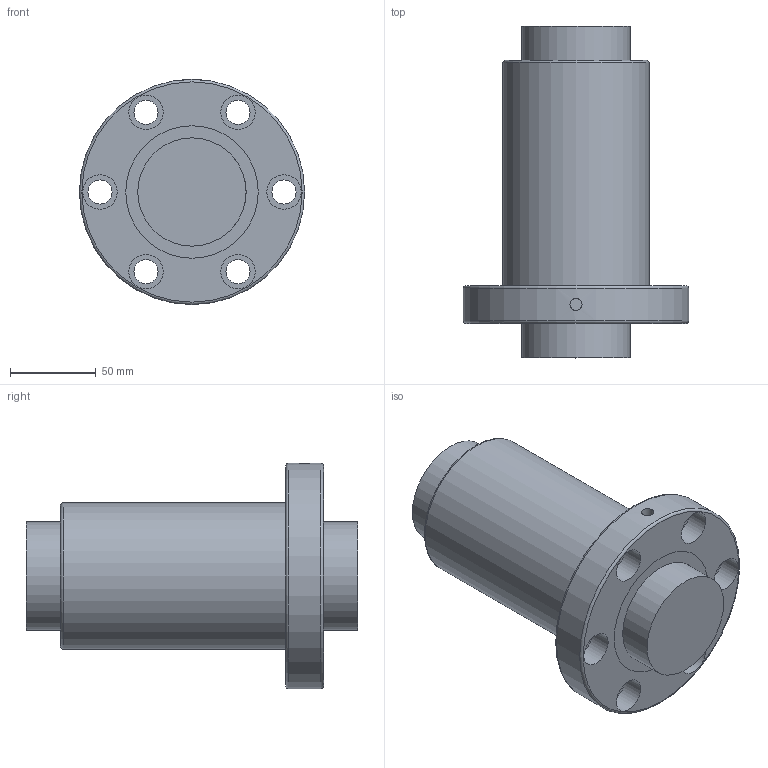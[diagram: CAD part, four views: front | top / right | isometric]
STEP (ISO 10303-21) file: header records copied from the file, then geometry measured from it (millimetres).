
FILE_DESCRIPTION(/* description */ (''),/* implementation_level */ '2;1');
FILE_NAME(/* name */ 'OFI06310-4.stp',/* time_stamp */ '2017-03-13T10:49:31+08:00',/* author */ (''),/* organization */ (''),/* preprocessor_version */ 'ST-DEVELOPER v11',/* originating_system */ 'SIEMENS UGS NX 6.0',/* authorisation */ '');
FILE_SCHEMA (('CONFIG_CONTROL_DESIGN'));
Length unit declared in the file: millimetre
Products named in the file (1): OFI06310-4
Bounding box: 131 x 193 x 131 mm (x, y, z)
Volume: 1131061.4 mm3; surface area: 155800.4 mm2
Topology: 4 solids, 4 shells, 44 faces, 81 edges, 54 vertices
Faces by surface type: cylinder 23, plane 18, torus 3
Full cylindrical faces by diameter (mm): 7 x1, 14 x6, 20 x6, 63 x4, 77 x4, 85 x1, 131 x1
Entity records: 1104 total; most frequent: CARTESIAN_POINT 200, DIRECTION 186, EDGE_LOOP 98, ORIENTED_EDGE 98, FACE_BOUND 95, AXIS2_PLACEMENT_3D 93, VERTEX_POINT 49, EDGE_CURVE 49
